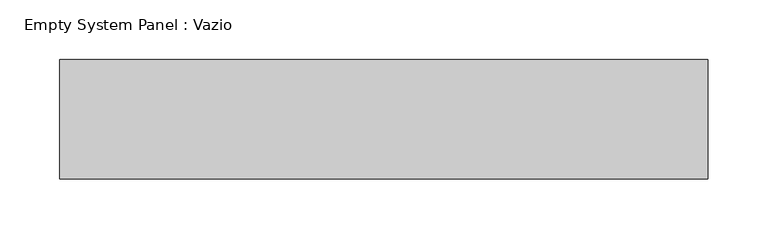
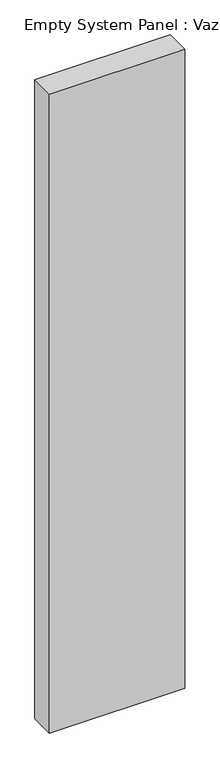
"""IFC4 building model written with IfcOpenShell, lengths in millimetres: plate geometry, Empty System Panel : Vazio."""

import ifcopenshell
import ifcopenshell.guid

model = None  # the IFC model being written
_history = None  # IfcOwnerHistory: only IFC2X3 demands one
_inside = {}  # id of a spatial element -> (the spatial element, [elements in it])
_under = {}  # id of a project, library or spatial element -> (it, [spatial elements below it])
_declared = {}  # id of a project -> (the project, [libraries it declares])
_typed = {}  # id of a type object -> (the type object, [elements of that type])
_made_of = {}  # id of a material, layer set ... -> (it, [elements and type objects made of it])


def new_model(schema):
    """Start an empty IFC model of exactly this schema.

    Asked for "IFC4X3", IfcOpenShell would pick the latest addendum, in which some entities
    have other attributes; the version numbers below select the first issue.
    IFC2X3 requires an IfcOwnerHistory on every rooted entity: one is made here for all.
    """
    global model, _history
    if schema == "IFC4X3":
        model = ifcopenshell.file(schema_version=(4, 3, 0, 0))
    else:
        model = ifcopenshell.file(schema=schema)
    _inside.clear()
    _under.clear()
    _declared.clear()
    _typed.clear()
    _made_of.clear()
    _history = None
    if model.schema == "IFC2X3":
        org = make("IfcOrganization", Name="unknown")
        user = make(
            "IfcPersonAndOrganization",
            ThePerson=make("IfcPerson", FamilyName="unknown"),
            TheOrganization=org,
        )
        app = make(
            "IfcApplication",
            ApplicationDeveloper=org,
            Version="unknown",
            ApplicationFullName="unknown",
            ApplicationIdentifier="unknown",
        )
        _history = make(
            "IfcOwnerHistory",
            OwningUser=user,
            OwningApplication=app,
            ChangeAction="ADDED",
            CreationDate=0,
        )
    return model


def make(cls, **values):
    """One entity of the class cls with the attributes given. An attribute that is None is left unset."""
    return model.create_entity(
        cls, **{name: value for name, value in values.items() if value is not None}
    )


def rooted(cls, **values):
    """An entity with a GlobalId (a new one), such as an element, a storey or a relation."""
    return make(cls, GlobalId=ifcopenshell.guid.new(), OwnerHistory=_history, **values)


def si_unit(unit_type, name, prefix=None):
    """IfcSIUnit, for example si_unit("LENGTHUNIT", "METRE", prefix="MILLI")."""
    return make("IfcSIUnit", UnitType=unit_type, Prefix=prefix, Name=name)


def assignment(units):
    """IfcUnitAssignment: the units of a project."""
    return None if units is None else make("IfcUnitAssignment", Units=units)


def point(xyz):
    """IfcCartesianPoint."""
    return None if xyz is None else make("IfcCartesianPoint", Coordinates=xyz)


def direction(xyz):
    """IfcDirection."""
    return None if xyz is None else make("IfcDirection", DirectionRatios=xyz)


def frame(location, z_axis=None, x_axis=None):
    """IfcAxis2Placement3D, a coordinate frame: its origin and axes. An axis left out is left unset."""
    return make(
        "IfcAxis2Placement3D",
        Location=point(location),
        Axis=direction(z_axis),
        RefDirection=direction(x_axis),
    )


def origin():
    """The frame at (0, 0, 0) with its axes left unset."""
    return frame((0.0, 0.0, 0.0))


def origin_with_axes():
    """The frame at (0, 0, 0) with the z axis (0, 0, 1) and the x axis (1, 0, 0) written out."""
    return frame((0.0, 0.0, 0.0), z_axis=(0.0, 0.0, 1.0), x_axis=(1.0, 0.0, 0.0))


def place(relative_to, where):
    """IfcLocalPlacement: puts the frame where relative to a parent placement (None: the world)."""
    return make(
        "IfcLocalPlacement", PlacementRelTo=relative_to, RelativePlacement=where
    )


def context(
    kind, dimensions, precision=None, world=None, true_north=None, identifier=None
):
    """IfcGeometricRepresentationContext, for example the 3D "Model" context."""
    return make(
        "IfcGeometricRepresentationContext",
        ContextIdentifier=identifier,
        ContextType=kind,
        CoordinateSpaceDimension=dimensions,
        Precision=precision,
        WorldCoordinateSystem=world,
        TrueNorth=true_north,
    )


def project(units=None, contexts=None):
    """IfcProject with its units and contexts."""
    return rooted(
        "IfcProject",
        Name="project",
        RepresentationContexts=contexts,
        UnitsInContext=assignment(units),
    )


def spatial(cls, under=None, at=None, **own):
    """A site, building, storey or space (cls), placed at a placement, below another one or the project."""
    s = rooted(cls, ObjectPlacement=at, **own)
    if under is not None:
        _under.setdefault(under.id(), (under, []))[1].append(s)
    return s


def polyline(points):
    """IfcPolyline through the points."""
    return make("IfcPolyline", Points=[point(p) for p in points])


def outline(outer, holes=None, kind="AREA"):
    """IfcArbitraryClosedProfileDef: a profile drawn as a closed curve; with holes, ...WithVoids."""
    if holes is None:
        return make("IfcArbitraryClosedProfileDef", ProfileType=kind, OuterCurve=outer)
    return make(
        "IfcArbitraryProfileDefWithVoids",
        ProfileType=kind,
        OuterCurve=outer,
        InnerCurves=holes,
    )


def extrude(swept, where, along, depth):
    """IfcExtrudedAreaSolid: the profile swept, set in the frame where, extruded along a direction by depth."""
    return make(
        "IfcExtrudedAreaSolid",
        SweptArea=swept,
        Position=where,
        ExtrudedDirection=direction(along),
        Depth=depth,
    )


def shape(context_of_items, identifier, shape_type, items):
    """IfcShapeRepresentation: the items that make up one representation, for example the "Body"."""
    return make(
        "IfcShapeRepresentation",
        ContextOfItems=context_of_items,
        RepresentationIdentifier=identifier,
        RepresentationType=shape_type,
        Items=items,
    )


def source(mapping_origin, context_of_items, identifier, shape_type, items):
    """IfcRepresentationMap: a shape defined once, which mapped items show again and again."""
    return make(
        "IfcRepresentationMap",
        MappingOrigin=mapping_origin,
        MappedRepresentation=shape(context_of_items, identifier, shape_type, items),
    )


def transform(
    local_origin,
    x_axis=None,
    y_axis=None,
    z_axis=None,
    scale=None,
    scale2=None,
    scale3=None,
    uniform=True,
):
    """IfcCartesianTransformationOperator3D, or its non-uniform kind. x_axis, y_axis, z_axis: its Axis1, 2, 3."""
    if uniform:
        return make(
            "IfcCartesianTransformationOperator3D",
            Axis1=direction(x_axis),
            Axis2=direction(y_axis),
            LocalOrigin=point(local_origin),
            Scale=scale,
            Axis3=direction(z_axis),
        )
    return make(
        "IfcCartesianTransformationOperator3DnonUniform",
        Axis1=direction(x_axis),
        Axis2=direction(y_axis),
        LocalOrigin=point(local_origin),
        Scale=scale,
        Axis3=direction(z_axis),
        Scale2=scale2,
        Scale3=scale3,
    )


def mapped(mapping_source, mapping_target):
    """IfcMappedItem: shows the shape of a source again, moved by a transform."""
    return make(
        "IfcMappedItem", MappingSource=mapping_source, MappingTarget=mapping_target
    )


def made_of(thing, what):
    """Note that an element or type object is made of a material, layer set ...; save() writes the relation."""
    if what is not None:
        _made_of.setdefault(what.id(), (what, []))[1].append(thing)
    return thing


def element(
    cls,
    number,
    at=None,
    inside=None,
    cuts=None,
    type_object=None,
    material=None,
    context=None,
    identifier="Body",
    shape_type=None,
    held_by="IfcProductDefinitionShape",
    body=None,
    shapes=None,
    **own,
):
    """One element of the class cls, such as IfcWall. Its Tag is "e" and its number.

    at: its placement. inside: the storey or other place that contains it. cuts: it is an
    opening in that element (IfcRelVoidsElement). A single representation is given by context,
    identifier, shape_type and body (its items); several are given by shapes. held_by: the class
    of the entity that holds the representations. save() writes the other relations.
    """
    e = rooted(cls, Tag="e%d" % number, ObjectPlacement=at, **own)
    if body is not None:
        shapes = [shape(context, identifier, shape_type, body)]
    if shapes is not None:
        e.Representation = make(held_by, Representations=shapes)
    if inside is not None:
        _inside.setdefault(inside.id(), (inside, []))[1].append(e)
    if cuts is not None:
        rooted(
            "IfcRelVoidsElement", RelatingBuildingElement=cuts, RelatedOpeningElement=e
        )
    if type_object is not None:
        _typed.setdefault(type_object.id(), (type_object, []))[1].append(e)
    return made_of(e, material)


def aggregate(whole, parts):
    """IfcRelAggregates: a whole, such as a stair, and the parts it consists of."""
    return rooted("IfcRelAggregates", RelatingObject=whole, RelatedObjects=parts)


def save(model, path):
    """Write the relations noted so far, then the file.

    IfcRelAggregates (storeys below a building ...), IfcRelContainedInSpatialStructure (elements
    in a storey), IfcRelDefinesByType, IfcRelAssociatesMaterial and IfcRelDeclares: one each for
    every whole, place, type object, material and project.
    """
    for whole, parts in _under.values():
        aggregate(whole, parts)
    for where, things in _inside.values():
        rooted(
            "IfcRelContainedInSpatialStructure",
            RelatedElements=things,
            RelatingStructure=where,
        )
    for kind, things in _typed.values():
        rooted("IfcRelDefinesByType", RelatedObjects=things, RelatingType=kind)
    for what, things in _made_of.values():
        rooted("IfcRelAssociatesMaterial", RelatedObjects=things, RelatingMaterial=what)
    for by, libraries in _declared.values():
        rooted("IfcRelDeclares", RelatingContext=by, RelatedDefinitions=libraries)
    model.write(path)


def empty_system_panel_vazio_61b4e04a(model_context):
    return source(origin(), model_context, "Body", "SweptSolid", [
        extrude(outline(polyline([(271.6482729, 50.0), (-271.6482729, 50.0), (-271.6482729, 150.0), (271.6482729, 150.0), (271.6482729, 50.0)])), origin_with_axes(), (0.0, 0.0, 1.0), 2710.5804586),
    ])


if __name__ == "__main__":
    model = new_model("IFC4")
    model_context = context("Model", 3, world=origin())
    ifc_project = project(units=[si_unit("LENGTHUNIT", "METRE", prefix="MILLI")], contexts=[model_context])
    site = spatial("IfcSite", under=ifc_project)
    building = spatial("IfcBuilding", under=site)
    placement = place(None, origin())
    empty_system_panel_vazio_shape = empty_system_panel_vazio_61b4e04a(model_context)
    element("IfcPlate", 1, ObjectType="Empty System Panel : Vazio", at=placement, inside=building, context=model_context, shape_type="MappedRepresentation", body=[
        mapped(empty_system_panel_vazio_shape, transform((0.0, 0.0, 0.0), x_axis=(1.0, 0.0, 0.0), y_axis=(0.0, 1.0, 0.0), z_axis=(0.0, 0.0, 1.0))),
    ])
    save(model, "model.ifc")
